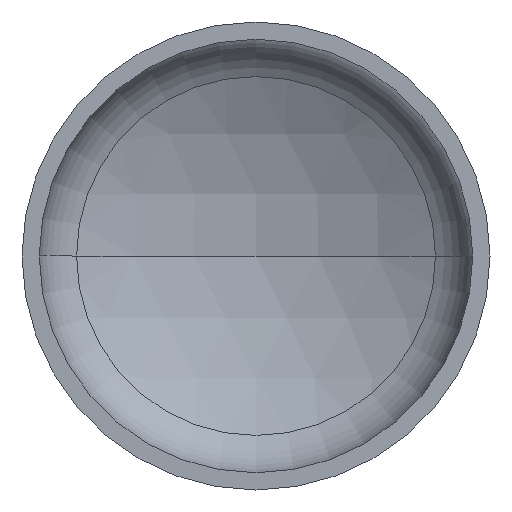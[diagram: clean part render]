
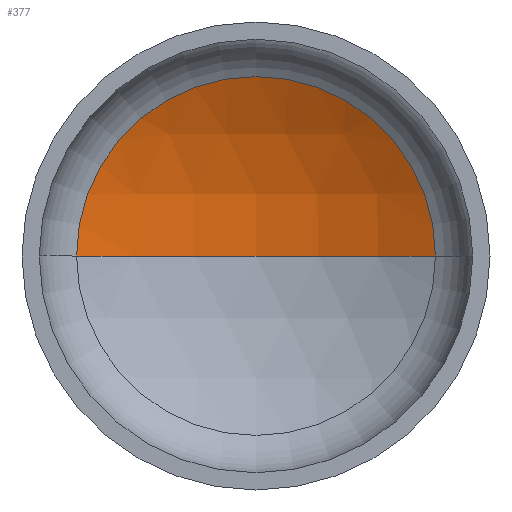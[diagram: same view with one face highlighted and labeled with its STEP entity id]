
A CAD part, front view. The second image highlights one B-rep face of the part: STEP entity #377.
In plain terms, the highlighted spherical face has radius 2560 mm.
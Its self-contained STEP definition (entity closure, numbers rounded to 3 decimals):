
#11 = AXIS2_PLACEMENT_3D ( 'NONE', #117, #260, #99 ) ;
#24 = CARTESIAN_POINT ( 'NONE',  ( 0., -1741.82, 0. ) ) ;
#31 = EDGE_LOOP ( 'NONE', ( #59, #46, #148 ) ) ;
#46 = ORIENTED_EDGE ( 'NONE', *, *, #248, .T. ) ;
#47 = VERTEX_POINT ( 'NONE', #280 ) ;
#53 = VERTEX_POINT ( 'NONE', #360 ) ;
#59 = ORIENTED_EDGE ( 'NONE', *, *, #251, .F. ) ;
#82 = DIRECTION ( 'NONE',  ( -1., 0., 0. ) ) ;
#84 = DIRECTION ( 'NONE',  ( 0., 0., -1. ) ) ;
#85 = DIRECTION ( 'NONE',  ( 0., -1., 0. ) ) ;
#91 = DIRECTION ( 'NONE',  ( 1., 0., 0. ) ) ;
#99 = DIRECTION ( 'NONE',  ( -1., 0., 0. ) ) ;
#117 = CARTESIAN_POINT ( 'NONE',  ( 0., -1741.82, 0. ) ) ;
#121 = VERTEX_POINT ( 'NONE', #337 ) ;
#141 = SPHERICAL_SURFACE ( 'NONE', #11, 2560. ) ;
#148 = ORIENTED_EDGE ( 'NONE', *, *, #245, .T. ) ;
#157 = CARTESIAN_POINT ( 'NONE',  ( 0., -1741.82, 0. ) ) ;
#169 = AXIS2_PLACEMENT_3D ( 'NONE', #24, #323, #210 ) ;
#172 = AXIS2_PLACEMENT_3D ( 'NONE', #157, #84, #82 ) ;
#174 = AXIS2_PLACEMENT_3D ( 'NONE', #303, #85, #91 ) ;
#201 = CIRCLE ( 'NONE', #174, 1226.821 ) ;
#210 = DIRECTION ( 'NONE',  ( 1., 0., 0. ) ) ;
#245 = EDGE_CURVE ( 'NONE', #53, #47, #201, .T. ) ;
#248 = EDGE_CURVE ( 'NONE', #121, #53, #279, .T. ) ;
#251 = EDGE_CURVE ( 'NONE', #121, #47, #374, .T. ) ;
#260 = DIRECTION ( 'NONE',  ( 0., 0., -1. ) ) ;
#279 = CIRCLE ( 'NONE', #172, 2560. ) ;
#280 = CARTESIAN_POINT ( 'NONE',  ( -1226.821, 505.069, 0. ) ) ;
#303 = CARTESIAN_POINT ( 'NONE',  ( 0., 505.069, 0. ) ) ;
#323 = DIRECTION ( 'NONE',  ( 0., 0., 1. ) ) ;
#337 = CARTESIAN_POINT ( 'NONE',  ( 0., 818.18, 0. ) ) ;
#359 = FACE_OUTER_BOUND ( 'NONE', #31, .T. ) ;
#360 = CARTESIAN_POINT ( 'NONE',  ( 1226.821, 505.069, 0. ) ) ;
#374 = CIRCLE ( 'NONE', #169, 2560. ) ;
#377 = ADVANCED_FACE ( 'NONE', ( #359 ), #141, .F. ) ;
